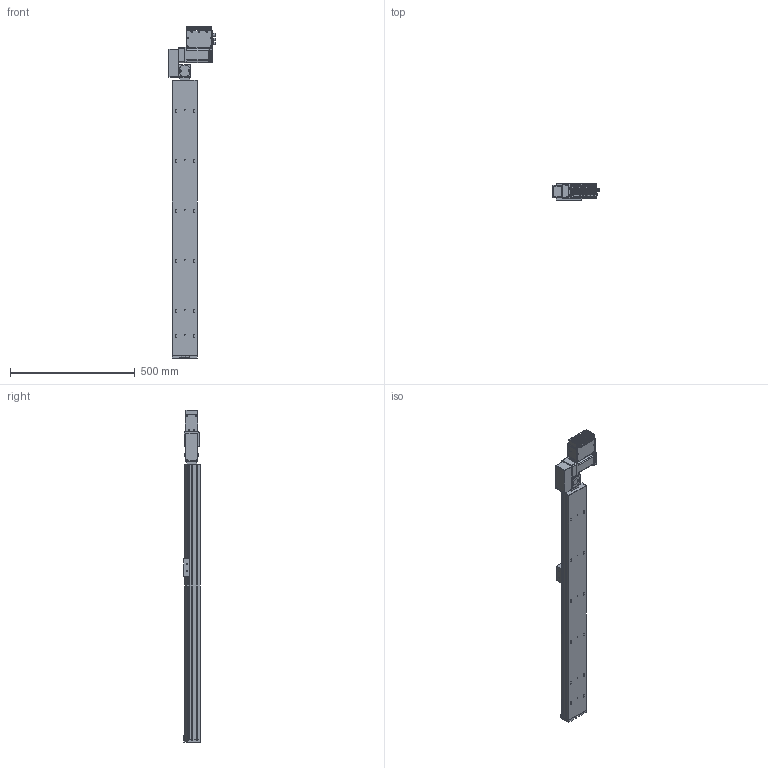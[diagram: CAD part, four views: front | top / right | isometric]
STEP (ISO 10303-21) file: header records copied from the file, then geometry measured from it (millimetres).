
FILE_DESCRIPTION (( 'STEP AP203' ), '1' );
FILE_NAME ('S10 TBN LH S1100.STEP', '2012-12-07T12:43:09', ( 'Conseil Régional Haute-Normandie' ), ( 'Conseil Régional Haute-Normandie' ), 'SwSTEP 2.0', 'SolidWorks 2010', '' );
FILE_SCHEMA (( 'CONFIG_CONTROL_DESIGN' ));
Length unit declared in the file: millimetre
Products named in the file (26): palette tbn; renvoi LH_Default; Plaque racord_Default; cache t皻e axe_Default; BU45 Carte d''axe A11_5; Moteur 60BLDC90A_3; Sub D 9cts 90_X2_00B_X0__3; Radiateur profil_X2_00E9_X0_ 100x25_3; S10 TBN LH S1100; axe 1100; embout; cache t皻e_Default; Copie de plaque de bout s10_Default^S10 TBN LH S1100; vis M5 L5_Default; Assem1_7; T_X2_00F4_X0_le contre le moteur_5; BU41 Carte Alimentation P05_3; Colonnette_3; Couvercle_3; T_X2_00F4_X0_le fond_3; Connecteur rond D10 3cts_5; Connecteur rond D12 4cts_5; Colonnette ronde_3; T_X2_00F4_X0_le Arri_X2_00E8_X0_re_5; T_X2_00F4_X0_le lat_X2_00E9_X0_rale_5; Vis TF 3 torkx_1_1
Assembly tree (52 placements, depth 3):
  S10 TBN LH S1100
    cache t皻e_Default  x2
    renvoi LH_Default
    vis M5 L5_Default  x4
    Plaque racord_Default
    embout
    Assem1_7
      T_X2_00F4_X0_le lat_X2_00E9_X0_rale_5  x2
      Vis TF 3 torkx_1_1  x21
      Connecteur rond D10 3cts_5  x2
      Colonnette ronde_3
      BU45 Carte d''axe A11_5
      T_X2_00F4_X0_le Arri_X2_00E8_X0_re_5
      BU41 Carte Alimentation P05_3
      Connecteur rond D12 4cts_5
      T_X2_00F4_X0_le contre le moteur_5
      Colonnette_3  x2
      Sub D 9cts 90_X2_00B_X0__3
      Moteur 60BLDC90A_3
      Couvercle_3
      Radiateur profil_X2_00E9_X0_ 100x25_3
      T_X2_00F4_X0_le fond_3
    cache t皻e axe_Default
    palette tbn
    Copie de plaque de bout s10_Default^S10 TBN LH S1100
    axe 1100
Bounding box: 186.1 x 66.75 x 1328.5 mm (x, y, z)
Volume: 6546893.2 mm3; surface area: 841527.8 mm2
Topology: 51 solids, 51 shells, 2033 faces, 5143 edges, 3342 vertices
Faces by surface type: plane 930, cylinder 926, cone 154, bspline 20, torus 3
Entity records: 44497 total; most frequent: CARTESIAN_POINT 8066, DIRECTION 7218, ORIENTED_EDGE 6582, EDGE_CURVE 3291, AXIS2_PLACEMENT_3D 2683, VERTEX_POINT 2156, VECTOR 1852, LINE 1852
